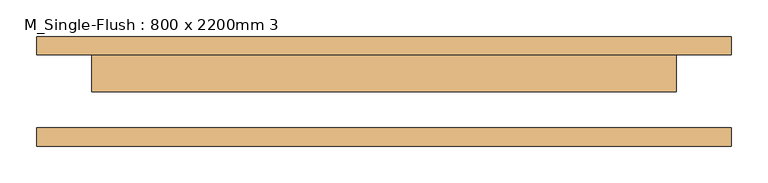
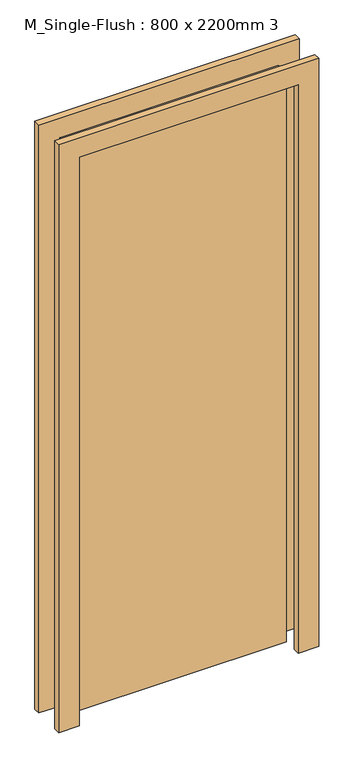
"""IFC4 building model written with IfcOpenShell, lengths in millimetres: door geometry, M_Single-Flush : 800 x 2200mm 3."""

from ifc_helpers import new_model, si_unit, frame, origin, origin_with_axes, place, context, project, spatial, polyline, outline, extrude, source, transform, mapped, element, save


def m_single_flush_800_x_2200mm_3_139129a3(model_context):
    return source(origin(), model_context, "Body", "SweptSolid", [
        extrude(outline(polyline([(2276.0, -476.0), (0.0, -476.0), (0.0, -400.0), (2200.0, -400.0), (2200.0, 400.0), (0.0, 400.0), (0.0, 476.0), (2276.0, 476.0), (2276.0, -476.0)])), frame((0.0, 50.0, 0.0), z_axis=(0.0, 1.0, 0.0), x_axis=(0.0, 0.0, 1.0)), (0.0, 0.0, 1.0), 25.0),
        extrude(outline(polyline([(2276.0, 476.0), (2276.0, -476.0), (0.0, -476.0), (0.0, -400.0), (2200.0, -400.0), (2200.0, 400.0), (0.0, 400.0), (0.0, 476.0), (2276.0, 476.0)])), frame((0.0, -75.0, 0.0), z_axis=(0.0, 1.0, 0.0), x_axis=(0.0, 0.0, 1.0)), (0.0, 0.0, 1.0), 25.0),
        extrude(outline(polyline([(400.0, -1.0), (-400.0, -1.0), (-400.0, 50.0), (400.0, 50.0), (400.0, -1.0)])), origin_with_axes(), (0.0, 0.0, 1.0), 2200.0),
    ])


if __name__ == "__main__":
    model = new_model("IFC4")
    model_context = context("Model", 3, world=origin())
    ifc_project = project(units=[si_unit("LENGTHUNIT", "METRE", prefix="MILLI")], contexts=[model_context])
    site = spatial("IfcSite", under=ifc_project)
    building = spatial("IfcBuilding", under=site)
    placement = place(None, origin())
    m_single_flush_800_x_2200mm_3_shape = m_single_flush_800_x_2200mm_3_139129a3(model_context)
    element("IfcDoor", 1, ObjectType="M_Single-Flush : 800 x 2200mm 3", at=placement, inside=building, context=model_context, shape_type="MappedRepresentation", body=[
        mapped(m_single_flush_800_x_2200mm_3_shape, transform((0.0, 0.0, 0.0), x_axis=(1.0, 0.0, 0.0), y_axis=(0.0, 1.0, 0.0), z_axis=(0.0, 0.0, 1.0))),
    ])
    save(model, "model.ifc")
